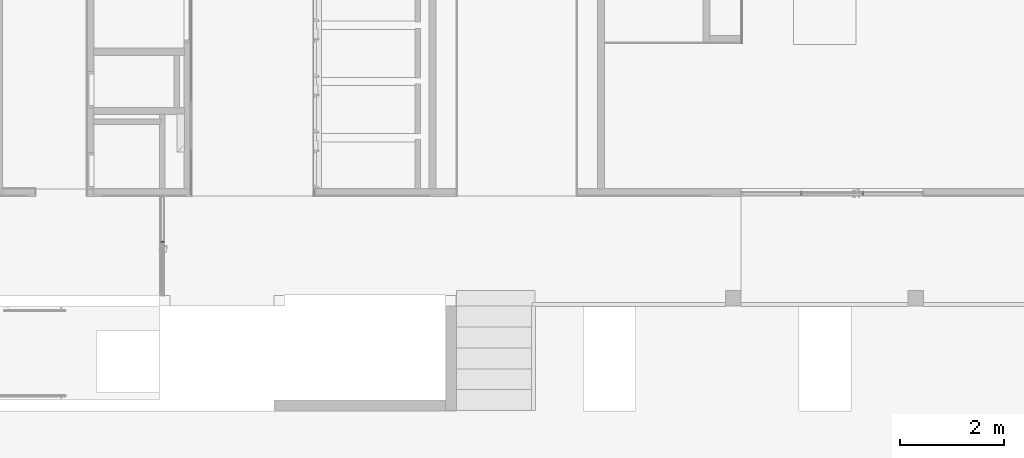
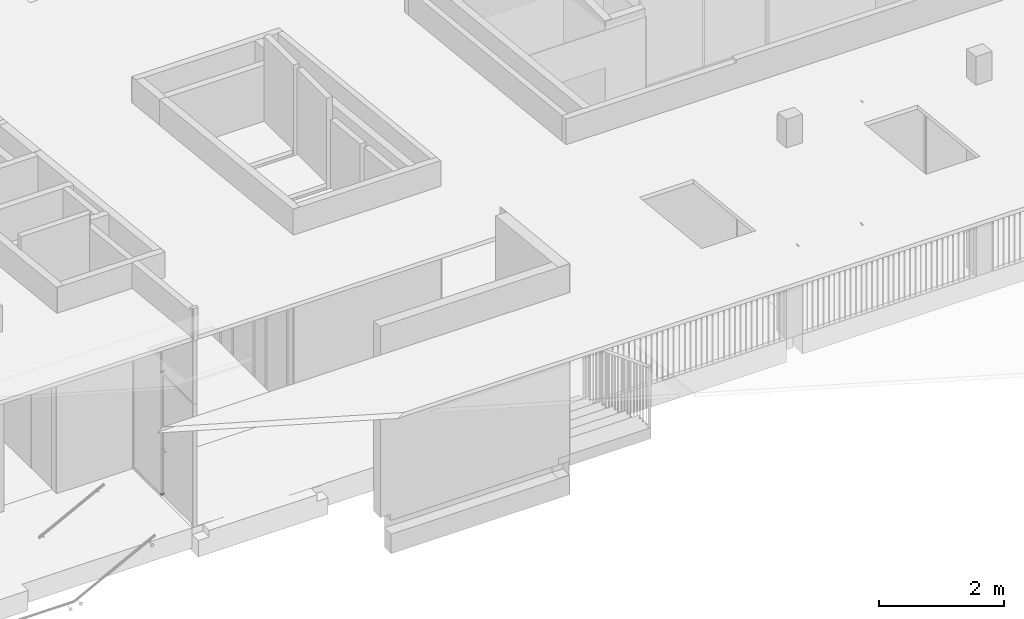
# One storey, part 8 of 43: 5 members, 2 elements without a shape of their own.
"""IFC2X3 building model written with IfcOpenShell, lengths in millimetres."""

from ifc_helpers import new_model, entity, si_unit, converted_unit, derived_unit, money_unit, direction, frame, origin_with_axes, place, context, subcontext, project, spatial, faceted_brep, source, transform, mapped, material, material_list, type_object, element, aggregate, save


model = new_model("IFC2X3")

# Units and contexts
model_context = context("Model", 3, precision=0.01, world=origin_with_axes(), true_north=direction((0.0, 1.0)))
body_context = subcontext(model_context, "Body", "Model", "MODEL_VIEW")
ifc_project = project(units=[si_unit("LENGTHUNIT", "METRE", prefix="MILLI"), si_unit("AREAUNIT", "SQUARE_METRE"), si_unit("VOLUMEUNIT", "CUBIC_METRE"), converted_unit("PLANEANGLEUNIT", "DEGREE", entity("IfcPlaneAngleMeasure", 0.0174532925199), si_unit("PLANEANGLEUNIT", "RADIAN"), dimensions=[0, 0, 0, 0, 0, 0, 0]), si_unit("SOLIDANGLEUNIT", "STERADIAN"), money_unit("EUR"), converted_unit("TIMEUNIT", "Year", entity("IfcTimeMeasure", 31556926.0), si_unit("TIMEUNIT", "SECOND"), dimensions=[0, 0, 1, 0, 0, 0, 0]), si_unit("MASSUNIT", "GRAM", prefix="KILO"), si_unit("THERMODYNAMICTEMPERATUREUNIT", "DEGREE_CELSIUS"), si_unit("LUMINOUSINTENSITYUNIT", "LUMEN"), si_unit("ENERGYUNIT", "JOULE", prefix="MEGA"), derived_unit("THERMALCONDUCTANCEUNIT", [(si_unit("POWERUNIT", "WATT"), 1), (si_unit("LENGTHUNIT", "METRE"), -1), (si_unit("THERMODYNAMICTEMPERATUREUNIT", "KELVIN"), -1)]), derived_unit("SPECIFICHEATCAPACITYUNIT", [(si_unit("ENERGYUNIT", "JOULE"), 1), (si_unit("MASSUNIT", "GRAM", prefix="KILO"), -1), (si_unit("THERMODYNAMICTEMPERATUREUNIT", "KELVIN"), -1)]), derived_unit("MASSDENSITYUNIT", [(si_unit("MASSUNIT", "GRAM", prefix="KILO"), 1), (si_unit("VOLUMEUNIT", "CUBIC_METRE"), -1)])], contexts=[model_context])

# Site, building, storey
site_placement = place(None, origin_with_axes())
site = spatial("IfcSite", under=ifc_project, at=site_placement, Name="L.Koidula tn 11b", CompositionType="ELEMENT")
building_placement = place(site_placement, origin_with_axes())
building = spatial("IfcBuilding", under=site, at=building_placement, Name="Rakvere Riigigümnaasium", CompositionType="ELEMENT")
storey_placement = place(building_placement, frame((0.0, 0.0, 6665.0), z_axis=(0.0, 0.0, 1.0), x_axis=(1.0, 0.0, 0.0)))
storey = spatial("IfcBuildingStorey", under=building, at=storey_placement, Name="3.korrus +6,66", CompositionType="ELEMENT", Elevation=6665.0)

# Curtain wall, member
curtain_wall_type = type_object("IfcCurtainWallType", Name="Curtain Wall Type", PredefinedType="NOTDEFINED")
curtain_wall_1_placement = place(storey_placement, frame((47063.0738161, 17825.4555095, 0.0), z_axis=(0.0, 0.0, 1.0), x_axis=(1.0, 0.0, 0.0)))
curtain_wall_1 = element("IfcCurtainWall", 1, at=curtain_wall_1_placement, inside=storey, type_object=curtain_wall_type, Name="SKLF-24")
ifc_material_1 = material(Name="Klaasvill")
ifc_material_2 = material(Name="Teras RAL7012")
ifc_material_list = material_list([ifc_material_1, ifc_material_2])
member_type_1 = type_object("IfcMemberType", Name="Boundary Frame 30 x 42", PredefinedType="MULLION")
shared_shape_1 = source(origin_with_axes(), body_context, "Body", "Brep", [
    faceted_brep([(7.49999990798, 15.000000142, 0.0), (13.8499999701, 15.000000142, 0.0), (13.8499999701, 15.000000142, 17.0000083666), (7.49999990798, 15.000000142, 17.0000083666), (7.49999990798, 29.0161444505, 0.0), (13.8499999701, 29.0161444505, 0.0), (13.8499999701, 29.0161444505, 17.0000083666), (7.49999990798, 29.0161444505, 17.0000083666)], [[[0, 1, 2, 3]], [[0, 4, 5, 1]], [[1, 5, 6, 2]], [[3, 2, 6, 7]], [[4, 0, 3, 7]], [[5, 4, 7, 6]]]),
    faceted_brep([(24.987414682, 29.0161444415, 0.0), (25.004489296, 27.0307503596, 0.0), (25.004489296, 27.0307503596, 17.0000083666), (24.987414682, 29.0161444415, 17.0000083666), (28.5126239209, 29.0161444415, 0.0), (28.7655837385, 28.0385325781, 0.0), (28.4955493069, 27.0307503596, 0.0), (27.75780152, 26.2930025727, 0.0), (26.7500193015, 26.0229681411, 0.0), (25.742237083, 26.2930025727, 0.0), (25.742237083, 26.2930025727, 17.0000083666), (26.7500193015, 26.0229681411, 17.0000083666), (27.75780152, 26.2930025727, 17.0000083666), (28.4955493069, 27.0307503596, 17.0000083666), (28.7655837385, 28.0385325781, 17.0000083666), (28.5126239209, 29.0161444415, 17.0000083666)], [[[0, 1, 2, 3]], [[0, 4, 5, 6, 7, 8, 9, 1]], [[1, 9, 10, 2]], [[3, 2, 10, 11, 12, 13, 14, 15]], [[4, 0, 3, 15]], [[5, 4, 15, 14]], [[6, 5, 14, 13]], [[7, 6, 13, 12]], [[8, 7, 12, 11]], [[9, 8, 11, 10]]]),
    faceted_brep([(7.49999990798, -24.9999997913, 0.0), (7.49999990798, -39.0161445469, 0.0), (7.49999990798, -39.0161445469, 17.0000083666), (7.49999990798, -24.9999997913, 17.0000083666), (13.8499999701, -24.9999997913, 0.0), (13.8499999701, -39.0161445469, 0.0), (13.8499999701, -39.0161445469, 17.0000083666), (13.8499999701, -24.9999997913, 17.0000083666)], [[[0, 1, 2, 3]], [[0, 4, 5, 1]], [[1, 5, 6, 2]], [[3, 2, 6, 7]], [[4, 0, 3, 7]], [[5, 4, 7, 6]]]),
    faceted_brep([(25.004489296, -37.0307503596, 0.0), (24.987414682, -39.0161444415, 0.0), (24.987414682, -39.0161444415, 17.0000083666), (25.004489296, -37.0307503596, 17.0000083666), (25.742237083, -36.2930025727, 0.0), (26.7500193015, -36.0229681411, 0.0), (27.75780152, -36.2930025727, 0.0), (28.4955493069, -37.0307503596, 0.0), (28.7655837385, -38.0385325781, 0.0), (28.5126239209, -39.0161444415, 0.0), (28.5126239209, -39.0161444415, 17.0000083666), (28.7655837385, -38.0385325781, 17.0000083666), (28.4955493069, -37.0307503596, 17.0000083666), (27.75780152, -36.2930025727, 17.0000083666), (26.7500193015, -36.0229681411, 17.0000083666), (25.742237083, -36.2930025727, 17.0000083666)], [[[0, 1, 2, 3]], [[0, 4, 5, 6, 7, 8, 9, 1]], [[1, 9, 10, 2]], [[3, 2, 10, 11, 12, 13, 14, 15]], [[4, 0, 3, 15]], [[5, 4, 15, 14]], [[6, 5, 14, 13]], [[7, 6, 13, 12]], [[8, 7, 12, 11]], [[9, 8, 11, 10]]]),
    faceted_brep([(0.0, -22.0000000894, 0.0), (29.5999996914, -22.0000000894, 0.0), (29.5999996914, -22.0000000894, 17.0000083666), (0.0, -22.0000000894, 17.0000083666), (0.0, 12.0000000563, 0.0), (29.5999996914, 12.0000000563, 0.0), (1.9999999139, 10.0000001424, 0.0), (1.9999999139, -20.0000001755, 0.0), (18.7999996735, -20.0000001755, 0.0), (18.7999996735, 10.0000001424, 0.0), (29.5999996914, 12.0000000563, 17.0000083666), (0.0, 12.0000000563, 17.0000083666), (1.9999999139, 10.0000001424, 17.0000083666), (18.7999996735, 10.0000001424, 17.0000083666), (18.7999996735, -20.0000001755, 17.0000083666), (1.9999999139, -20.0000001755, 17.0000083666)], [[[0, 1, 2, 3]], [[0, 4, 5, 1], [6, 7, 8, 9]], [[1, 5, 10, 2]], [[3, 2, 10, 11], [12, 13, 14, 15]], [[4, 0, 3, 11]], [[5, 4, 11, 10]], [[7, 6, 12, 15]], [[8, 7, 15, 14]], [[9, 8, 14, 13]], [[6, 9, 13, 12]]]),
    faceted_brep([(0.0, 12.0, 0.0), (29.5999996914, 12.0000000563, 0.0), (29.5999996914, 12.0000000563, 17.0000083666), (0.0, 12.0, 17.0000083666), (0.0, 32.0, 0.0), (30.0000193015, 32.0, 0.0), (30.0000193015, 29.0161444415, 0.0), (28.5126239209, 29.0161444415, 0.0), (24.987414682, 29.0161444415, 0.0), (13.8499999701, 29.0161444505, 0.0), (7.49999999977, 29.0161444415, 0.0), (7.49999999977, 15.0, 0.0), (13.8499999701, 15.000000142, 0.0), (30.0000193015, 15.0, 0.0), (30.0000193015, 12.0, 0.0), (30.0000193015, 12.0, 17.0000083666), (30.0000193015, 15.0, 17.0000083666), (13.8499999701, 15.000000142, 17.0000083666), (7.49999999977, 15.0, 17.0000083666), (7.49999999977, 29.0161444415, 17.0000083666), (13.8499999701, 29.0161444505, 17.0000083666), (24.987414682, 29.0161444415, 17.0000083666), (28.5126239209, 29.0161444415, 17.0000083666), (30.0000193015, 29.0161444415, 17.0000083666), (30.0000193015, 32.0, 17.0000083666), (0.0, 32.0, 17.0000083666)], [[[0, 1, 2, 3]], [[0, 4, 5, 6, 7, 8, 9, 10, 11, 12, 13, 14, 1]], [[1, 14, 15, 2]], [[3, 2, 15, 16, 17, 18, 19, 20, 21, 22, 23, 24, 25]], [[4, 0, 3, 25]], [[5, 4, 25, 24]], [[6, 5, 24, 23]], [[7, 6, 23, 22]], [[8, 7, 22, 21]], [[9, 8, 21, 20]], [[10, 9, 20, 19]], [[11, 10, 19, 18]], [[12, 11, 18, 17]], [[13, 12, 17, 16]], [[14, 13, 16, 15]]]),
    faceted_brep([(0.0, -22.0, 0.0), (0.0, -42.0, 0.0), (0.0, -42.0, 17.0000083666), (0.0, -22.0, 17.0000083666), (29.5999996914, -22.0000000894, 0.0), (30.0000193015, -22.0, 0.0), (30.0000193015, -25.0, 0.0), (13.8499999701, -24.9999997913, 0.0), (7.49999999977, -25.0, 0.0), (7.49999999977, -39.0161444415, 0.0), (13.8499999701, -39.0161445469, 0.0), (24.987414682, -39.0161444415, 0.0), (28.5126239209, -39.0161444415, 0.0), (30.0000193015, -39.0161444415, 0.0), (30.0000193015, -42.0, 0.0), (30.0000193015, -42.0, 17.0000083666), (30.0000193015, -39.0161444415, 17.0000083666), (28.5126239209, -39.0161444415, 17.0000083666), (24.987414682, -39.0161444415, 17.0000083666), (13.8499999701, -39.0161445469, 17.0000083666), (7.49999999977, -39.0161444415, 17.0000083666), (7.49999999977, -25.0, 17.0000083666), (13.8499999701, -24.9999997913, 17.0000083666), (30.0000193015, -25.0, 17.0000083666), (30.0000193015, -22.0, 17.0000083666), (29.5999996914, -22.0000000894, 17.0000083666)], [[[0, 1, 2, 3]], [[0, 4, 5, 6, 7, 8, 9, 10, 11, 12, 13, 14, 1]], [[1, 14, 15, 2]], [[3, 2, 15, 16, 17, 18, 19, 20, 21, 22, 23, 24, 25]], [[4, 0, 3, 25]], [[5, 4, 25, 24]], [[6, 5, 24, 23]], [[7, 6, 23, 22]], [[8, 7, 22, 21]], [[9, 8, 21, 20]], [[10, 9, 20, 19]], [[11, 10, 19, 18]], [[12, 11, 18, 17]], [[13, 12, 17, 16]], [[14, 13, 16, 15]]]),
])
member_1_placement = place(curtain_wall_1_placement, frame((0.0, 515.0, 0.0), z_axis=(0.0, 1.0, 0.0), x_axis=(0.0, 0.0, 1.0)))
member_1 = element("IfcMember", 2, at=member_1_placement, type_object=member_type_1, material=ifc_material_list, Name="SKLF-24-raam", ObjectType="MULLION", context=body_context, shape_type="MappedRepresentation", body=[
    mapped(shared_shape_1, transform((0.0, 0.0, 0.0))),
])

# Curtain wall, members
curtain_wall_2_placement = place(storey_placement, frame((58878.6347232, 19272.4397072, 0.0), z_axis=(0.0, 0.0, 1.0), x_axis=(1.0, 0.0, 0.0)))
curtain_wall_2 = element("IfcCurtainWall", 3, at=curtain_wall_2_placement, inside=storey, type_object=curtain_wall_type, Name="SKLF-29")
member_2_placement = place(curtain_wall_2_placement, frame((454.399993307, 0.0, 0.0), z_axis=(1.0, 0.0, 0.0), x_axis=(0.0, 0.0, 1.0)))
member_2 = element("IfcMember", 4, at=member_2_placement, type_object=member_type_1, material=ifc_material_list, Name="SKLF-27-raam", ObjectType="MULLION", context=body_context, shape_type="MappedRepresentation", body=[
    mapped(shared_shape_1, transform((0.0, 0.0, 0.0))),
])
member_3_placement = place(curtain_wall_2_placement, frame((1641.40000167, 0.0, 0.0), z_axis=(1.0, 0.0, 0.0), x_axis=(0.0, 0.0, 1.0)))
member_3 = element("IfcMember", 5, at=member_3_placement, type_object=member_type_1, material=ifc_material_list, Name="SKLF-42-raam", ObjectType="MULLION", context=body_context, shape_type="MappedRepresentation", body=[
    mapped(shared_shape_1, transform((0.0, 0.0, 0.0))),
])

# Member
member_type_2 = type_object("IfcMemberType", Name="Siseklaasfassaad-Servaprofiil-Doubleline30 30 x 42", PredefinedType="MULLION")
shared_shape_2 = source(origin_with_axes(), body_context, "Body", "Brep", [
    faceted_brep([(13.8499999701, 15.000000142, 7.84833717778), (13.8499999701, 15.000000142, 16.9999972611), (7.49999990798, 15.000000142, 16.9999972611), (7.49999990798, 15.000000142, 4.25000203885), (13.8499999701, 29.0161444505, 7.84833717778), (13.8499999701, 29.0161444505, 16.9999972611), (7.49999990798, 29.0161444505, 16.9999972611), (7.49999990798, 29.0161444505, 4.25000203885)], [[[0, 1, 2, 3]], [[4, 5, 1, 0]], [[2, 1, 5, 6]], [[3, 2, 6, 7]], [[3, 7, 4, 0]], [[7, 6, 5, 4]]]),
    faceted_brep([(25.004489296, 27.0307503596, 14.1692175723), (25.004489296, 27.0307503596, 16.9999972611), (24.987414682, 29.0161444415, 16.9999972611), (24.987414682, 29.0161444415, 14.159541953), (25.742237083, 26.2930025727, 14.5872748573), (25.742237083, 26.2930025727, 16.9999972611), (26.7500193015, 26.0229681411, 16.9999972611), (27.75780152, 26.2930025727, 16.9999972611), (28.4955493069, 27.0307503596, 16.9999972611), (28.7655837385, 28.0385325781, 16.9999972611), (28.5126239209, 29.0161444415, 16.9999972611), (28.5126239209, 29.0161444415, 16.1571615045), (28.7655837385, 28.0385325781, 16.3005054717), (28.4955493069, 27.0307503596, 16.1474858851), (27.75780152, 26.2930025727, 15.7294286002), (26.7500193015, 26.0229681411, 15.1583517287)], [[[0, 1, 2, 3]], [[4, 5, 1, 0]], [[2, 1, 5, 6, 7, 8, 9, 10]], [[3, 2, 10, 11]], [[3, 11, 12, 13, 14, 15, 4, 0]], [[15, 6, 5, 4]], [[14, 7, 6, 15]], [[13, 8, 7, 14]], [[12, 9, 8, 13]], [[11, 10, 9, 12]]]),
    faceted_brep([(7.49999990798, -39.0161445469, 4.25000203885), (7.49999990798, -39.0161445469, 16.9999972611), (7.49999990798, -24.9999997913, 16.9999972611), (7.49999990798, -24.9999997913, 4.25000203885), (13.8499999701, -39.0161445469, 7.84833717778), (13.8499999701, -39.0161445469, 16.9999972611), (13.8499999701, -24.9999997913, 16.9999972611), (13.8499999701, -24.9999997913, 7.84833717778)], [[[0, 1, 2, 3]], [[4, 5, 1, 0]], [[2, 1, 5, 6]], [[3, 2, 6, 7]], [[3, 7, 4, 0]], [[7, 6, 5, 4]]]),
    faceted_brep([(24.987414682, -39.0161444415, 14.159541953), (24.987414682, -39.0161444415, 16.9999972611), (25.004489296, -37.0307503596, 16.9999972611), (25.004489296, -37.0307503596, 14.1692175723), (28.5126239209, -39.0161444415, 16.1571615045), (28.5126239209, -39.0161444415, 16.9999972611), (28.7655837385, -38.0385325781, 16.9999972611), (28.4955493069, -37.0307503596, 16.9999972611), (27.75780152, -36.2930025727, 16.9999972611), (26.7500193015, -36.0229681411, 16.9999972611), (25.742237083, -36.2930025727, 16.9999972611), (25.742237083, -36.2930025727, 14.5872748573), (26.7500193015, -36.0229681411, 15.1583517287), (27.75780152, -36.2930025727, 15.7294286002), (28.4955493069, -37.0307503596, 16.1474858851), (28.7655837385, -38.0385325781, 16.3005054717)], [[[0, 1, 2, 3]], [[4, 5, 1, 0]], [[2, 1, 5, 6, 7, 8, 9, 10]], [[3, 2, 10, 11]], [[3, 11, 12, 13, 14, 15, 4, 0]], [[15, 6, 5, 4]], [[14, 7, 6, 15]], [[13, 8, 7, 14]], [[12, 9, 8, 13]], [[11, 10, 9, 12]]]),
    faceted_brep([(29.5999996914, -22.0000000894, 16.7733414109), (29.5999996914, -22.0000000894, 16.9999972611), (0.0, -22.0000000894, 16.9999972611), (0.0, -22.0000000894, 0.0), (29.5999996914, 12.0000000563, 16.7733414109), (29.5999996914, 12.0000000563, 16.9999972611), (0.0, 12.0000000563, 16.9999972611), (1.9999999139, 10.0000001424, 16.9999972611), (18.7999996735, 10.0000001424, 16.9999972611), (18.7999996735, -20.0000001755, 16.9999972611), (1.9999999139, -20.0000001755, 16.9999972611), (0.0, 12.0000000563, 0.0), (1.9999999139, 10.0000001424, 1.13333384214), (1.9999999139, -20.0000001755, 1.13333384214), (18.7999996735, -20.0000001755, 10.6533383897), (18.7999996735, 10.0000001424, 10.6533383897)], [[[0, 1, 2, 3]], [[4, 5, 1, 0]], [[2, 1, 5, 6], [7, 8, 9, 10]], [[3, 2, 6, 11]], [[3, 11, 4, 0], [12, 13, 14, 15]], [[11, 6, 5, 4]], [[15, 8, 7, 12]], [[14, 9, 8, 15]], [[13, 10, 9, 14]], [[12, 7, 10, 13]]]),
    faceted_brep([(0.0, 12.0, 0.0), (0.0, 12.0, 16.9999972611), (0.0, 32.0, 16.9999972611), (0.0, 32.0, 0.0), (29.5999996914, 12.0000000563, 16.7733414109), (29.5999996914, 12.0000000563, 16.9999972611), (7.49999999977, 15.0, 16.9999972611), (7.49999999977, 29.0161444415, 16.9999972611), (13.8499999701, 29.0161444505, 16.9999972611), (24.987414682, 29.0161444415, 16.9999972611), (28.5126239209, 29.0161444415, 16.9999972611), (30.0000193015, 29.0161444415, 16.9999972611), (30.0000193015, 32.0, 16.9999972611), (30.0000193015, 12.0, 16.9999972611), (30.0000193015, 15.0, 16.9999972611), (13.8499999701, 15.000000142, 16.9999972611), (28.5126239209, 29.0161444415, 16.1571615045), (24.987414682, 29.0161444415, 14.159541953), (13.8499999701, 29.0161444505, 7.84833717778), (7.49999999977, 29.0161444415, 4.25000209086), (7.49999999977, 15.0, 4.25000209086), (13.8499999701, 15.000000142, 7.84833717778)], [[[0, 1, 2, 3]], [[1, 0, 4, 5]], [[6, 7, 8, 9, 10, 11, 12, 2, 1, 5, 13, 14, 15]], [[3, 2, 12]], [[0, 3, 12, 11, 16, 17, 18, 19, 20, 21, 14, 13, 4]], [[5, 4, 13]], [[7, 6, 20, 19]], [[7, 19, 18, 8]], [[9, 8, 18, 17]], [[9, 17, 16, 10]], [[10, 16, 11]], [[21, 15, 14]], [[20, 6, 15, 21]]]),
    faceted_brep([(0.0, -42.0, 0.0), (0.0, -42.0, 16.9999972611), (0.0, -22.0, 16.9999972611), (0.0, -22.0, 0.0), (30.0000193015, -42.0, 16.9999972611), (7.49999999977, -39.0161444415, 16.9999972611), (7.49999999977, -25.0, 16.9999972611), (13.8499999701, -24.9999997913, 16.9999972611), (30.0000193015, -25.0, 16.9999972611), (30.0000193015, -22.0, 16.9999972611), (29.5999996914, -22.0000000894, 16.9999972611), (30.0000193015, -39.0161444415, 16.9999972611), (28.5126239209, -39.0161444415, 16.9999972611), (24.987414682, -39.0161444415, 16.9999972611), (13.8499999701, -39.0161445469, 16.9999972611), (29.5999996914, -22.0000000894, 16.7733414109), (13.8499999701, -24.9999997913, 7.84833717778), (7.49999999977, -25.0, 4.25000209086), (7.49999999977, -39.0161444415, 4.25000209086), (13.8499999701, -39.0161445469, 7.84833717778), (24.987414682, -39.0161444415, 14.159541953), (28.5126239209, -39.0161444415, 16.1571615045)], [[[0, 1, 2, 3]], [[1, 0, 4]], [[5, 6, 7, 8, 9, 10, 2, 1, 4, 11, 12, 13, 14]], [[3, 2, 10, 15]], [[0, 3, 15, 9, 8, 16, 17, 18, 19, 20, 21, 11, 4]], [[6, 5, 18, 17]], [[6, 17, 16, 7]], [[7, 16, 8]], [[15, 10, 9]], [[21, 12, 11]], [[13, 12, 21, 20]], [[19, 14, 13, 20]], [[18, 5, 14, 19]]]),
])
member_4_placement = place(curtain_wall_1_placement, frame((0.0, 515.0, 2400.0), z_axis=(0.0, 1.0, 0.0), x_axis=(0.0, 0.0, 1.0)))
member_4 = element("IfcMember", 6, at=member_4_placement, type_object=member_type_2, material=ifc_material_list, Name="Frame-Siseklaasf-406", ObjectType="MULLION", context=body_context, shape_type="MappedRepresentation", body=[
    mapped(shared_shape_2, transform((0.0, 0.0, 0.0))),
])

aggregate(curtain_wall_1, [member_1, member_4])

member_5_placement = place(curtain_wall_2_placement, frame((1641.40000167, 0.0, 2400.0), z_axis=(1.0, 0.0, 0.0), x_axis=(0.0, 0.0, 1.0)))
member_5 = element("IfcMember", 7, at=member_5_placement, type_object=member_type_2, material=ifc_material_list, Name="Frame-Siseklaasf-377", ObjectType="MULLION", context=body_context, shape_type="MappedRepresentation", body=[
    mapped(shared_shape_2, transform((0.0, 0.0, 0.0))),
])

aggregate(curtain_wall_2, [member_2, member_3, member_5])

save(model, "model.ifc")
